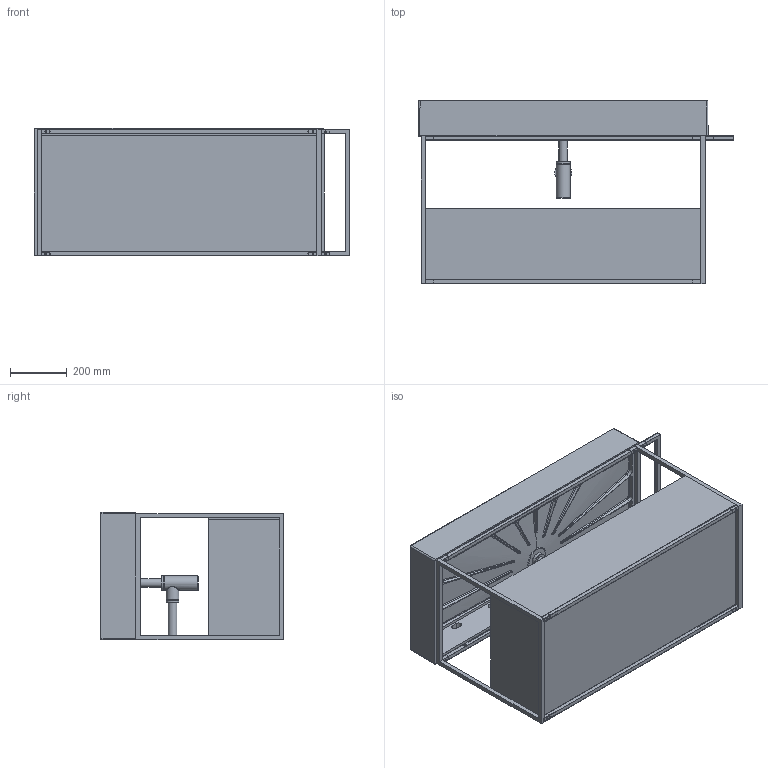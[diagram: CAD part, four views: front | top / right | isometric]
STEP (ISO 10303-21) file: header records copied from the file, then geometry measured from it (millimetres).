
FILE_DESCRIPTION (( 'STEP AP203' ), '1' );
FILE_NAME ('MSQ 102.STEP', '2023-03-31T09:15:04', ( '' ), ( '' ), 'SwSTEP 2.0', 'SolidWorks 2023', '' );
FILE_SCHEMA (( 'CONFIG_CONTROL_DESIGN' ));
Length unit declared in the file: millimetre
Products named in the file (16): CASSETTOscocca102; STRUCTURE M; SIFONE LAVABO SOSPESO; STRUCTURE H102; CASSETTOcassetto102; grano; STRUCTURE A; ELLP102450Q0; AssiemeSTRUCTURE LATERALE; AssiemeSTRUCTURE102; vite; STRUCTURE H102 fix; AssiemeSTRUCTUREB; MSQ 102; cassetto102; STRUCTURE B
Assembly tree (31 placements, depth 4):
  MSQ 102
    AssiemeSTRUCTURE102
      STRUCTURE H102 fix
      AssiemeSTRUCTURE LATERALE  x2
        STRUCTURE A
        STRUCTURE B
        vite
        grano
      STRUCTURE H102  x3
      STRUCTURE M
      AssiemeSTRUCTUREB  x2
        STRUCTURE B
        grano
        vite
    cassetto102
      CASSETTOscocca102
      CASSETTOcassetto102
    ELLP102450Q0
    SIFONE LAVABO SOSPESO
Bounding box: 1110 x 645 x 450 mm (x, y, z)
Volume: 52727281.2 mm3; surface area: 6932600.8 mm2
Topology: 41 solids, 41 shells, 884 faces, 2145 edges, 1380 vertices
Faces by surface type: plane 562, cylinder 155, bspline 115, torus 20, sphere 19, cone 13
Full cylindrical faces by diameter (mm): 4 x2, 5 x50, 9 x10, 10 x2, 30 x2, 35 x1, 43 x1, 45 x2, 48 x1, 50 x3, 60 x1, 78 x1
Entity records: 33523 total; most frequent: CARTESIAN_POINT 22006, ORIENTED_EDGE 2042, DIRECTION 1721, EDGE_CURVE 1021, VERTEX_POINT 664, AXIS2_PLACEMENT_3D 621, EDGE_LOOP 553, FACE_OUTER_BOUND 490
